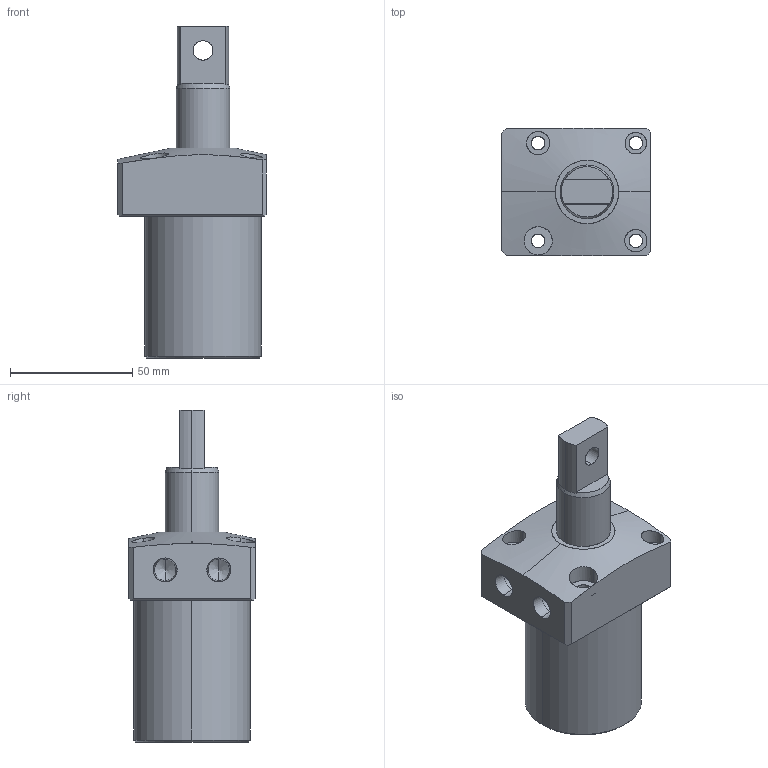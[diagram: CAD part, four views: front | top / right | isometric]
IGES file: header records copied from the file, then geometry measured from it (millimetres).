
Start section: SolidWorks IGES file using analytic representation for surfaces
Global section: file name: E:\ALL SSVT IGS MODEL\ALL-SWING-IGS\48-SWING\SWING-48-TOP-PTYPE-LH-RH\SC02-482-LP-TOP PTYPE.IGS; native system: SolidWorks 2019; preprocessor: SolidWorks 2019; author: SSVT; date: 210822.121120; units: millimetre
Bounding box: 61 x 52 x 136 mm (x, y, z)
Surface area: 35520.8 mm2 (no closed solid volume)
Topology: 0 solids, 0 shells, 77 faces, 1535 edges, 1531 vertices
Faces by surface type: revolution 49, bspline 28
